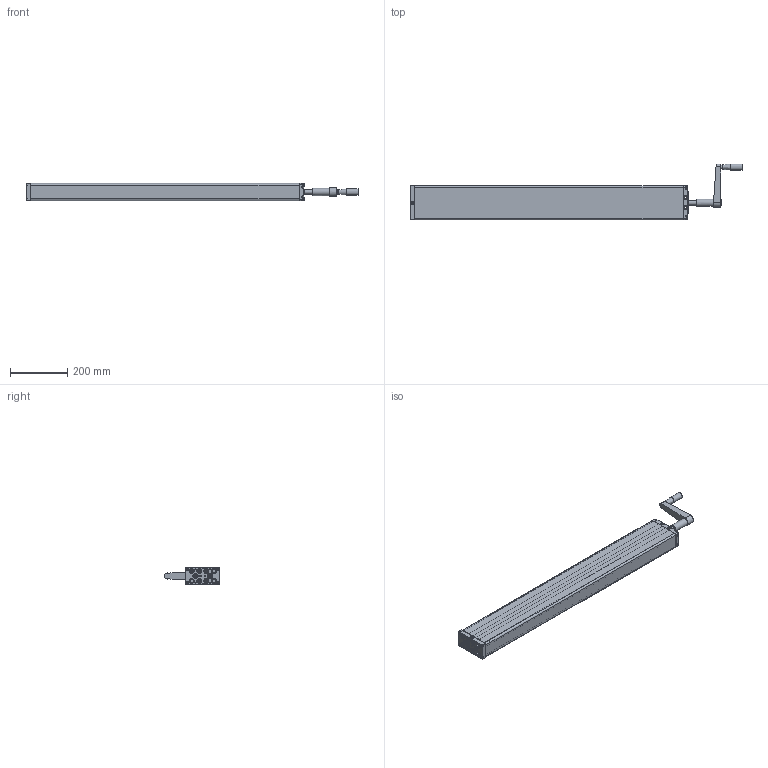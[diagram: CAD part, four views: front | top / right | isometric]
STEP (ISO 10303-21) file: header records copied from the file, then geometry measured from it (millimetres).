
FILE_DESCRIPTION(/* description */ ('Unknown'),/* implementation_level */ '2;1');
FILE_NAME(/* name */ '312.20267 Pumpe PB 7870 W Handkurbel',/* time_stamp */ '2016-11-25T11:15:14+01:00',/* author */ ('Unknown'),/* organization */ ('Unknown'),/* preprocessor_version */ 'ST-DEVELOPER v16.7',/* originating_system */ 'DEX',/* authorisation */ $);
FILE_SCHEMA (('AUTOMOTIVE_DESIGN {1 0 10303 214 3 1 1}'));
Products named in the file (23): 102.00267; 115.10039; 125.00061; 115.00008; 142.00021; 125.00021; 113.00005; 128.00001; 125.00052; 126.00013; 125.00053; 127.00014; Handgriff; 142.00013; 125.00149; 115.00140; 126.00006; 122.00040; 119.00040; 126.00036; 142.00057; 142.00083; 142.00017
Assembly tree (39 placements, depth 3):
  102.00267
    115.10039  x7
      125.00061
      115.00008
      142.00021
      125.00021
    113.00005
      128.00001
      125.00052
      126.00013
      125.00053
      127.00014
      Handgriff
    142.00013  x8
    125.00149
    115.00140
      126.00006
      122.00040
    119.00040
    126.00036
    142.00057
    142.00083  x4
    142.00017  x2
Bounding box: 1159.75 x 195.5 x 60.3 mm (x, y, z)
Volume: 1290918.2 mm3; surface area: 852735 mm2
Topology: 47 solids, 47 shells, 2184 faces, 4963 edges, 2903 vertices
Faces by surface type: plane 791, cylinder 497, bspline 380, cone 351, torus 108, sphere 57
Full cylindrical faces by diameter (mm): 3.5 x7, 4 x2, 4.1 x7, 4.134 x4, 4.2 x8, 4.917 x4, 5 x12, 5.8 x4, 6 x2, 6.8 x1, 6.917 x14, 8 x16, 8.5 x4, 9.8 x8, 10 x6, 10.4 x1, 10.5 x4, 12.5 x7, 12.8 x1, 13 x25, 14 x1, 14.4 x7, 16 x2, 17 x1, 17.9 x14, 18 x11, 19 x1, 20.6 x1, 21 x1, 22 x1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
Entity records: 64061 total; most frequent: CARTESIAN_POINT 30506, ORIENTED_EDGE 5368, DIRECTION 4817, EDGE_CURVE 2684, AXIS2_PLACEMENT_3D 1875, VERTEX_POINT 1709, FACE_BOUND 1541, EDGE_LOOP 1538
